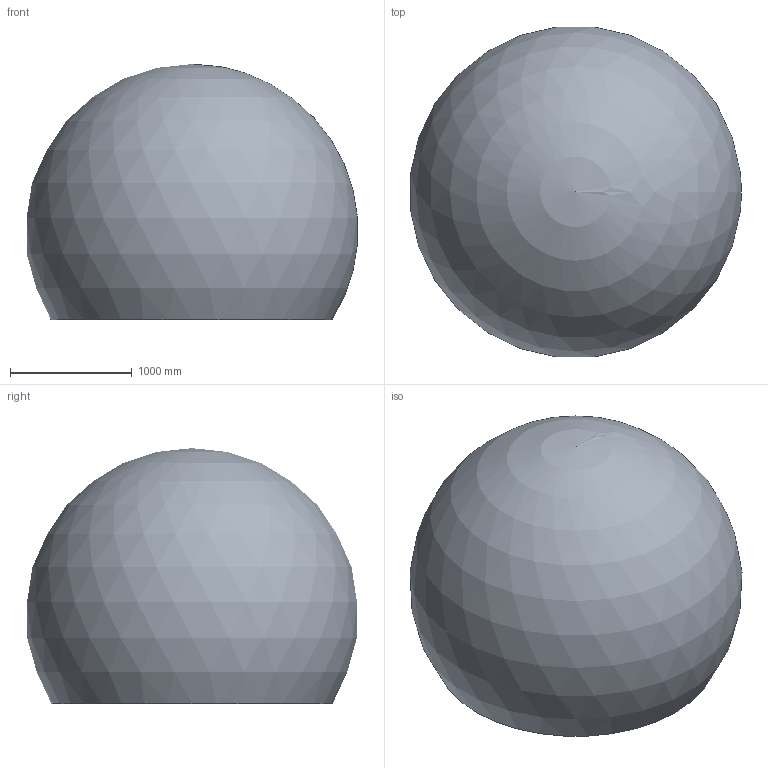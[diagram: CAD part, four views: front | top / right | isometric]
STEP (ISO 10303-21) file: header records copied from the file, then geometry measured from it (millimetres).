
FILE_DESCRIPTION(/* description */ (''),/* implementation_level */ '2;1');
FILE_NAME(/* name */ 'HC10DTP-B00.stp',/* time_stamp */ '2022-04-21T13:23:25+02:00',/* author */ (''),/* organization */ (''),/* preprocessor_version */ 'ST-DEVELOPER v16.7',/* originating_system */ 'SIEMENS PLM Software NX 1919',/* authorisation */ '');
FILE_SCHEMA (('AUTOMOTIVE_DESIGN { 1 0 10303 214 3 1 1 1 }'));
Length unit declared in the file: millimetre
Products named in the file (9): HC10DTP-B00-Range; T_VIEW_YR-1-06VXCP10-B00; B_VIEW_YR-1-06VXCP10-B00; R_VIEW_YR-1-06VXCP10-B00; U_VIEW_YR-1-06VXCP10-B00; L_VIEW_YR-1-06VXCP10-B00; S_VIEW_YR-1-06VXCP10-B00; BASE_VIEW_YR-1-06VXCP10-B00; HC10DTP-B00
Assembly tree (8 placements, depth 2):
  HC10DTP-B00
    BASE_VIEW_YR-1-06VXCP10-B00
    S_VIEW_YR-1-06VXCP10-B00
    L_VIEW_YR-1-06VXCP10-B00
    U_VIEW_YR-1-06VXCP10-B00
    R_VIEW_YR-1-06VXCP10-B00
    B_VIEW_YR-1-06VXCP10-B00
    T_VIEW_YR-1-06VXCP10-B00
    HC10DTP-B00-Range
Bounding box: 2722.95 x 2715.07 x 2104.34 mm (x, y, z)
Volume: 9336263374.6 mm3; surface area: 23866652.5 mm2
Topology: 8 solids, 18 shells, 3905 faces, 9503 edges, 5771 vertices
Faces by surface type: cylinder 1149, plane 1006, bspline 843, cone 467, torus 409, sphere 29, extrusion 2
Full cylindrical faces by diameter (mm): 199 x1
Entity records: 185060 total; most frequent: CARTESIAN_POINT 98928, ORIENTED_EDGE 18918, DIRECTION 17075, EDGE_CURVE 9459, AXIS2_PLACEMENT_3D 7260, VERTEX_POINT 5768, EDGE_LOOP 4111, ADVANCED_FACE 3905
